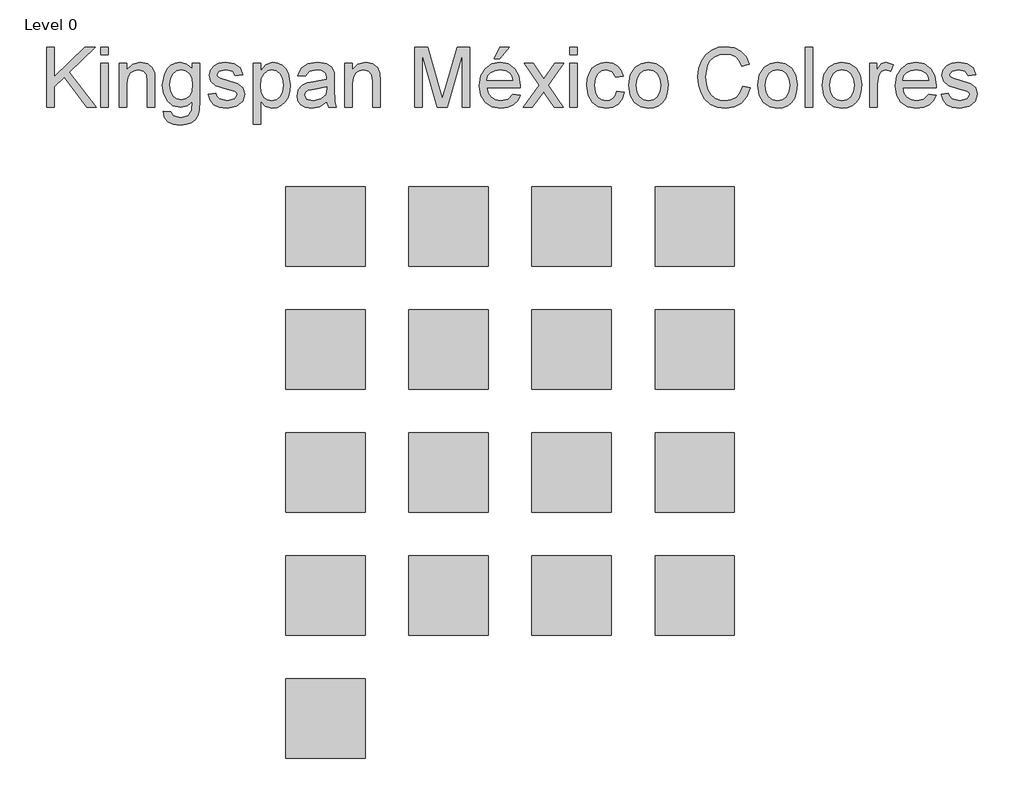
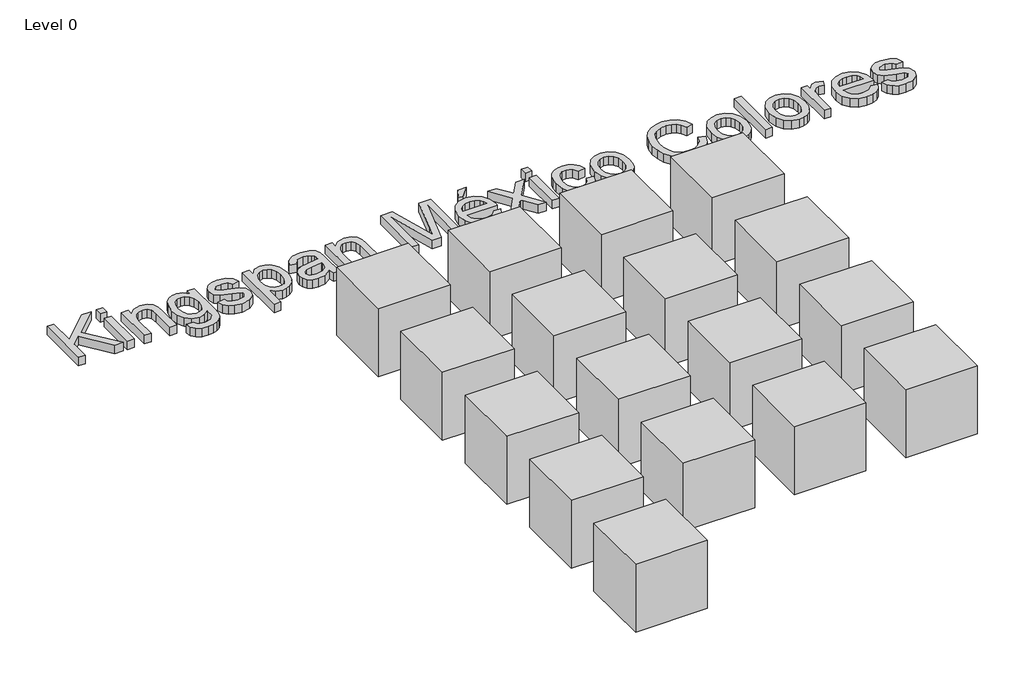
# One storey, incomplete: 18 proxies.
"""IFC4 building model written with IfcOpenShell, lengths in millimetres."""

import ifcopenshell
import ifcopenshell.guid

model = None  # the IFC model being written
_history = None  # IfcOwnerHistory: only IFC2X3 demands one
_inside = {}  # id of a spatial element -> (the spatial element, [elements in it])
_under = {}  # id of a project, library or spatial element -> (it, [spatial elements below it])
_declared = {}  # id of a project -> (the project, [libraries it declares])
_typed = {}  # id of a type object -> (the type object, [elements of that type])
_made_of = {}  # id of a material, layer set ... -> (it, [elements and type objects made of it])


def new_model(schema):
    """Start an empty IFC model of exactly this schema.

    Asked for "IFC4X3", IfcOpenShell would pick the latest addendum, in which some entities
    have other attributes; the version numbers below select the first issue.
    IFC2X3 requires an IfcOwnerHistory on every rooted entity: one is made here for all.
    """
    global model, _history
    if schema == "IFC4X3":
        model = ifcopenshell.file(schema_version=(4, 3, 0, 0))
    else:
        model = ifcopenshell.file(schema=schema)
    _inside.clear()
    _under.clear()
    _declared.clear()
    _typed.clear()
    _made_of.clear()
    _history = None
    if model.schema == "IFC2X3":
        org = make("IfcOrganization", Name="unknown")
        user = make(
            "IfcPersonAndOrganization",
            ThePerson=make("IfcPerson", FamilyName="unknown"),
            TheOrganization=org,
        )
        app = make(
            "IfcApplication",
            ApplicationDeveloper=org,
            Version="unknown",
            ApplicationFullName="unknown",
            ApplicationIdentifier="unknown",
        )
        _history = make(
            "IfcOwnerHistory",
            OwningUser=user,
            OwningApplication=app,
            ChangeAction="ADDED",
            CreationDate=0,
        )
    return model


def make(cls, **values):
    """One entity of the class cls with the attributes given. An attribute that is None is left unset."""
    return model.create_entity(
        cls, **{name: value for name, value in values.items() if value is not None}
    )


def rooted(cls, **values):
    """An entity with a GlobalId (a new one), such as an element, a storey or a relation."""
    return make(cls, GlobalId=ifcopenshell.guid.new(), OwnerHistory=_history, **values)


def si_unit(unit_type, name, prefix=None):
    """IfcSIUnit, for example si_unit("LENGTHUNIT", "METRE", prefix="MILLI")."""
    return make("IfcSIUnit", UnitType=unit_type, Prefix=prefix, Name=name)


def assignment(units):
    """IfcUnitAssignment: the units of a project."""
    return None if units is None else make("IfcUnitAssignment", Units=units)


def point(xyz):
    """IfcCartesianPoint."""
    return None if xyz is None else make("IfcCartesianPoint", Coordinates=xyz)


def direction(xyz):
    """IfcDirection."""
    return None if xyz is None else make("IfcDirection", DirectionRatios=xyz)


def frame(location, z_axis=None, x_axis=None):
    """IfcAxis2Placement3D, a coordinate frame: its origin and axes. An axis left out is left unset."""
    return make(
        "IfcAxis2Placement3D",
        Location=point(location),
        Axis=direction(z_axis),
        RefDirection=direction(x_axis),
    )


def origin():
    """The frame at (0, 0, 0) with its axes left unset."""
    return frame((0.0, 0.0, 0.0))


def origin_with_axes():
    """The frame at (0, 0, 0) with the z axis (0, 0, 1) and the x axis (1, 0, 0) written out."""
    return frame((0.0, 0.0, 0.0), z_axis=(0.0, 0.0, 1.0), x_axis=(1.0, 0.0, 0.0))


def place(relative_to, where):
    """IfcLocalPlacement: puts the frame where relative to a parent placement (None: the world)."""
    return make(
        "IfcLocalPlacement", PlacementRelTo=relative_to, RelativePlacement=where
    )


def context(
    kind, dimensions, precision=None, world=None, true_north=None, identifier=None
):
    """IfcGeometricRepresentationContext, for example the 3D "Model" context."""
    return make(
        "IfcGeometricRepresentationContext",
        ContextIdentifier=identifier,
        ContextType=kind,
        CoordinateSpaceDimension=dimensions,
        Precision=precision,
        WorldCoordinateSystem=world,
        TrueNorth=true_north,
    )


def project(units=None, contexts=None):
    """IfcProject with its units and contexts."""
    return rooted(
        "IfcProject",
        Name="project",
        RepresentationContexts=contexts,
        UnitsInContext=assignment(units),
    )


def spatial(cls, under=None, at=None, **own):
    """A site, building, storey or space (cls), placed at a placement, below another one or the project."""
    s = rooted(cls, ObjectPlacement=at, **own)
    if under is not None:
        _under.setdefault(under.id(), (under, []))[1].append(s)
    return s


def polyline(points):
    """IfcPolyline through the points."""
    return make("IfcPolyline", Points=[point(p) for p in points])


def outline(outer, holes=None, kind="AREA"):
    """IfcArbitraryClosedProfileDef: a profile drawn as a closed curve; with holes, ...WithVoids."""
    if holes is None:
        return make("IfcArbitraryClosedProfileDef", ProfileType=kind, OuterCurve=outer)
    return make(
        "IfcArbitraryProfileDefWithVoids",
        ProfileType=kind,
        OuterCurve=outer,
        InnerCurves=holes,
    )


def extrude(swept, where, along, depth):
    """IfcExtrudedAreaSolid: the profile swept, set in the frame where, extruded along a direction by depth."""
    return make(
        "IfcExtrudedAreaSolid",
        SweptArea=swept,
        Position=where,
        ExtrudedDirection=direction(along),
        Depth=depth,
    )


def shape(context_of_items, identifier, shape_type, items):
    """IfcShapeRepresentation: the items that make up one representation, for example the "Body"."""
    return make(
        "IfcShapeRepresentation",
        ContextOfItems=context_of_items,
        RepresentationIdentifier=identifier,
        RepresentationType=shape_type,
        Items=items,
    )


def source(mapping_origin, context_of_items, identifier, shape_type, items):
    """IfcRepresentationMap: a shape defined once, which mapped items show again and again."""
    return make(
        "IfcRepresentationMap",
        MappingOrigin=mapping_origin,
        MappedRepresentation=shape(context_of_items, identifier, shape_type, items),
    )


def transform(
    local_origin,
    x_axis=None,
    y_axis=None,
    z_axis=None,
    scale=None,
    scale2=None,
    scale3=None,
    uniform=True,
):
    """IfcCartesianTransformationOperator3D, or its non-uniform kind. x_axis, y_axis, z_axis: its Axis1, 2, 3."""
    if uniform:
        return make(
            "IfcCartesianTransformationOperator3D",
            Axis1=direction(x_axis),
            Axis2=direction(y_axis),
            LocalOrigin=point(local_origin),
            Scale=scale,
            Axis3=direction(z_axis),
        )
    return make(
        "IfcCartesianTransformationOperator3DnonUniform",
        Axis1=direction(x_axis),
        Axis2=direction(y_axis),
        LocalOrigin=point(local_origin),
        Scale=scale,
        Axis3=direction(z_axis),
        Scale2=scale2,
        Scale3=scale3,
    )


def mapped(mapping_source, mapping_target):
    """IfcMappedItem: shows the shape of a source again, moved by a transform."""
    return make(
        "IfcMappedItem", MappingSource=mapping_source, MappingTarget=mapping_target
    )


def made_of(thing, what):
    """Note that an element or type object is made of a material, layer set ...; save() writes the relation."""
    if what is not None:
        _made_of.setdefault(what.id(), (what, []))[1].append(thing)
    return thing


def element(
    cls,
    number,
    at=None,
    inside=None,
    cuts=None,
    type_object=None,
    material=None,
    context=None,
    identifier="Body",
    shape_type=None,
    held_by="IfcProductDefinitionShape",
    body=None,
    shapes=None,
    **own,
):
    """One element of the class cls, such as IfcWall. Its Tag is "e" and its number.

    at: its placement. inside: the storey or other place that contains it. cuts: it is an
    opening in that element (IfcRelVoidsElement). A single representation is given by context,
    identifier, shape_type and body (its items); several are given by shapes. held_by: the class
    of the entity that holds the representations. save() writes the other relations.
    """
    e = rooted(cls, Tag="e%d" % number, ObjectPlacement=at, **own)
    if body is not None:
        shapes = [shape(context, identifier, shape_type, body)]
    if shapes is not None:
        e.Representation = make(held_by, Representations=shapes)
    if inside is not None:
        _inside.setdefault(inside.id(), (inside, []))[1].append(e)
    if cuts is not None:
        rooted(
            "IfcRelVoidsElement", RelatingBuildingElement=cuts, RelatedOpeningElement=e
        )
    if type_object is not None:
        _typed.setdefault(type_object.id(), (type_object, []))[1].append(e)
    return made_of(e, material)


def aggregate(whole, parts):
    """IfcRelAggregates: a whole, such as a stair, and the parts it consists of."""
    return rooted("IfcRelAggregates", RelatingObject=whole, RelatedObjects=parts)


def save(model, path):
    """Write the relations noted so far, then the file.

    IfcRelAggregates (storeys below a building ...), IfcRelContainedInSpatialStructure (elements
    in a storey), IfcRelDefinesByType, IfcRelAssociatesMaterial and IfcRelDeclares: one each for
    every whole, place, type object, material and project.
    """
    for whole, parts in _under.values():
        aggregate(whole, parts)
    for where, things in _inside.values():
        rooted(
            "IfcRelContainedInSpatialStructure",
            RelatedElements=things,
            RelatingStructure=where,
        )
    for kind, things in _typed.values():
        rooted("IfcRelDefinesByType", RelatedObjects=things, RelatingType=kind)
    for what, things in _made_of.values():
        rooted("IfcRelAssociatesMaterial", RelatedObjects=things, RelatingMaterial=what)
    for by, libraries in _declared.values():
        rooted("IfcRelDeclares", RelatingContext=by, RelatedDefinitions=libraries)
    model.write(path)


def generic_models_b1469a46(model_context):
    return source(origin(), model_context, "Body", "SweptSolid", [
        extrude(outline(polyline([(-1167.8046055, 2278.480545), (-1167.8046055, 2429.1650102), (-1148.9690473, 2429.1650102), (-1148.9690473, 2355.4046702), (-1071.7138283, 2429.1650102), (-1045.3734775, 2429.1650102), (-1110.2310732, 2367.2136822), (-1043.0190327, 2278.480545), (-1066.0484456, 2278.480545), (-1123.5851897, 2354.4849652), (-1148.9690473, 2330.2783299), (-1148.9690473, 2278.480545), (-1167.8046055, 2278.480545)])), origin_with_axes(), (0.0, 0.0, 1.0), 25.0),
        extrude(outline(polyline([(-1031.2468089, 2410.3294521), (-1031.2468089, 2429.1650102), (-1012.4112507, 2429.1650102), (-1012.4112507, 2410.3294521), (-1031.2468089, 2410.3294521)])), origin_with_axes(), (0.0, 0.0, 1.0), 25.0),
        extrude(outline(polyline([(-1031.2468089, 2278.480545), (-1031.2468089, 2389.1394492), (-1012.4112507, 2389.1394492), (-1012.4112507, 2278.480545), (-1031.2468089, 2278.480545)])), origin_with_axes(), (0.0, 0.0, 1.0), 25.0),
        extrude(outline(polyline([(-984.1579135, 2278.480545), (-984.1579135, 2389.1394492), (-965.3223553, 2389.1394492), (-965.3223553, 2373.6884054), (-950.9197752, 2387.0425218), (-931.2564826, 2391.4938939), (-913.4693881, 2387.9070445), (-901.3292823, 2378.4892654), (-895.6822937, 2364.6385083), (-894.6890123, 2346.4283495), (-894.6890123, 2278.480545), (-913.5245704, 2278.480545), (-913.5245704, 2343.8899637), (-915.6950742, 2360.5550181), (-923.3654138, 2369.3657919), (-936.2964659, 2372.6583358), (-947.3283273, 2370.8097287), (-956.7323108, 2365.2639077), (-963.1748442, 2354.5493446), (-965.3223553, 2337.1945114), (-965.3223553, 2278.480545), (-984.1579135, 2278.480545)])), origin_with_axes(), (0.0, 0.0, 1.0), 25.0),
        extrude(outline(polyline([(-873.4990093, 2269.0627659), (-854.6634512, 2266.7083212), (-848.5566101, 2256.7755073), (-830.2728749, 2252.5816525), (-810.9958584, 2257.3273303), (-801.7988085, 2270.6446585), (-800.5112215, 2292.6072136), (-813.7733674, 2282.0122122), (-829.9417811, 2278.480545), (-849.3613519, 2282.5916263), (-863.842107, 2294.9248702), (-872.8506173, 2313.0062703), (-875.8534541, 2334.3618201), (-870.4639829, 2363.5532564), (-863.8696981, 2375.4036552), (-854.8657863, 2384.2098304), (-843.7603486, 2389.672878), (-830.8614861, 2391.4938939), (-814.058476, 2387.3736156), (-800.5112215, 2375.0127805), (-800.5112215, 2389.1394492), (-781.6756634, 2389.1394492), (-781.6756634, 2293.600495), (-782.9632503, 2271.5413709), (-786.8260113, 2257.0146306), (-793.4800769, 2247.3807208), (-803.1415778, 2240.0000883), (-815.5989818, 2235.3095929), (-830.6407569, 2233.7460944), (-848.1657355, 2235.9487878), (-861.9659088, 2242.5568682), (-870.8180693, 2253.5887295), (-873.4990093, 2269.0627659)]), holes=[polyline([(-857.017896, 2335.6494071), (-855.0083406, 2318.3727489), (-848.9796744, 2306.4947589), (-839.9159817, 2299.6107671), (-828.8013469, 2297.3161032), (-817.7694856, 2299.5969715), (-808.6598077, 2306.4395766), (-802.5483681, 2318.1658152), (-800.5112215, 2335.0975841), (-802.6081489, 2351.4269461), (-808.898931, 2363.1853744), (-818.1419661, 2370.2900954), (-829.0956525, 2372.6583358), (-839.8516024, 2370.3268836), (-848.8693098, 2363.3325272), (-854.9807494, 2351.7488429), (-857.017896, 2335.6494071)])]), origin_with_axes(), (0.0, 0.0, 1.0), 25.0),
        extrude(outline(polyline([(-760.4856604, 2311.4427718), (-741.6501023, 2313.7972165), (-738.6794552, 2305.7406008), (-732.931299, 2299.8177007), (-712.9553067, 2294.9616584), (-693.7518665, 2299.4130305), (-687.4978726, 2309.8608792), (-689.0705681, 2314.6617392), (-693.7886547, 2318.3221651), (-713.1760358, 2323.6932422), (-741.5397377, 2332.9086862), (-753.9189668, 2343.6692345), (-758.1312157, 2358.8627609), (-754.7467013, 2372.8974591), (-745.5128632, 2383.6212192), (-733.5383043, 2389.1946315), (-717.3331024, 2391.4938939), (-694.4140541, 2387.7966799), (-679.8459271, 2377.7902896), (-673.371204, 2360.8861119), (-692.2067621, 2358.5316672), (-699.2884905, 2368.9243335), (-715.8615744, 2372.6583358), (-733.8877922, 2369.0898804), (-739.2956575, 2360.7757473), (-737.0515773, 2355.2943056), (-730.0250312, 2351.1372391), (-713.8014352, 2347.1273253), (-686.1551033, 2338.2613692), (-673.3160217, 2328.2181908), (-668.6623144, 2311.847442), (-674.1253621, 2293.8212242), (-689.8891056, 2280.7430193), (-713.212824, 2276.1261002), (-732.2047321, 2278.3517863), (-746.0646862, 2285.0288445), (-755.3169184, 2296.0836985), (-760.4856604, 2311.4427718)])), origin_with_axes(), (0.0, 0.0, 1.0), 25.0),
        extrude(outline(polyline([(-647.4723115, 2236.1005392), (-647.4723115, 2389.1394492), (-628.6367534, 2389.1394492), (-628.6367534, 2370.671773), (-615.6137307, 2386.2883637), (-598.0289714, 2391.4938939), (-585.2910573, 2389.672878), (-574.1534299, 2384.2098304), (-565.0851387, 2375.4358448), (-558.5552333, 2363.6820151), (-553.2945207, 2334.6561257), (-554.7798443, 2318.5474928), (-559.235815, 2304.1403142), (-566.5198785, 2292.1657552), (-576.4894805, 2283.3549814), (-588.100756, 2277.9333205), (-600.3098397, 2276.1261002), (-616.6989826, 2280.9637485), (-628.6367534, 2293.1958248), (-628.6367534, 2236.1005392), (-647.4723115, 2236.1005392)]), holes=[polyline([(-628.6367534, 2332.9270803), (-626.5996068, 2316.0412967), (-620.4881672, 2304.2322847), (-611.4704598, 2297.279315), (-600.7145099, 2294.9616584), (-589.7838161, 2297.3620884), (-580.5361825, 2304.5633785), (-574.2316048, 2316.8046519), (-572.1300789, 2334.3250319), (-574.181021, 2351.118845), (-580.3338474, 2363.0934039), (-589.3377592, 2370.2671028), (-599.9419577, 2372.6583358), (-610.587543, 2370.1153515), (-619.9363442, 2362.4863986), (-626.4616511, 2350.0106004), (-628.6367534, 2332.9270803)])]), origin_with_axes(), (0.0, 0.0, 1.0), 25.0),
        extrude(outline(polyline([(-461.4711747, 2292.6072136), (-479.7365158, 2279.8417084), (-499.9148432, 2276.1261002), (-515.6555941, 2278.3609834), (-527.2668696, 2285.0656327), (-534.4267729, 2295.2467669), (-536.8134074, 2307.9111046), (-533.2081638, 2322.8103254), (-523.7352024, 2333.6260561), (-510.5466329, 2339.8064736), (-494.2494605, 2342.639165), (-461.5815393, 2349.1138881), (-461.4711747, 2353.3077428), (-462.7679588, 2361.7138464), (-466.6583109, 2367.2136822), (-475.3587201, 2371.2971724), (-487.4804318, 2372.6583358), (-506.5367192, 2369.0346981), (-515.6234044, 2356.1772224), (-534.4589626, 2358.5316672), (-526.3103764, 2376.9257669), (-509.9028394, 2387.7047094), (-485.0524106, 2391.4938939), (-462.2253328, 2388.1461678), (-449.3310689, 2379.7400642), (-443.5553216, 2366.9561648), (-442.6356166, 2350.4750515), (-442.6356166, 2327.0409684), (-441.6791234, 2294.3178649), (-437.9267271, 2278.480545), (-456.7622852, 2278.480545), (-461.4711747, 2292.6072136)]), holes=[polyline([(-461.4711747, 2330.2783299), (-491.8582276, 2324.5025826), (-508.0634294, 2321.449162), (-515.4026752, 2316.4827551), (-517.9778492, 2309.2354798), (-512.3676488, 2299.0451485), (-495.9049295, 2294.9616584), (-476.8486421, 2299.4682128), (-464.5613835, 2310.375914), (-461.5815393, 2324.944041), (-461.4711747, 2330.2783299)])]), origin_with_axes(), (0.0, 0.0, 1.0), 25.0),
        extrude(outline(polyline([(-416.7367241, 2278.480545), (-416.7367241, 2389.1394492), (-397.901166, 2389.1394492), (-397.901166, 2373.6884054), (-383.4985859, 2387.0425218), (-363.8352932, 2391.4938939), (-346.0481988, 2387.9070445), (-333.9080929, 2378.4892654), (-328.2611043, 2364.6385083), (-327.2678229, 2346.4283495), (-327.2678229, 2278.480545), (-346.1033811, 2278.480545), (-346.1033811, 2343.8899637), (-348.2738848, 2360.5550181), (-355.9442244, 2369.3657919), (-368.8752766, 2372.6583358), (-379.9071379, 2370.8097287), (-389.3111214, 2365.2639077), (-395.7536548, 2354.5493446), (-397.901166, 2337.1945114), (-397.901166, 2278.480545), (-416.7367241, 2278.480545)])), origin_with_axes(), (0.0, 0.0, 1.0), 25.0),
        extrude(outline(polyline([(-240.1533665, 2278.480545), (-240.1533665, 2429.1650102), (-207.7429627, 2429.1650102), (-176.9144515, 2322.9574782), (-170.6972458, 2300.7741939), (-163.9650053, 2324.7968882), (-133.6515288, 2429.1650102), (-101.2411251, 2429.1650102), (-101.2411251, 2278.480545), (-120.0766832, 2278.480545), (-120.0766832, 2410.3294521), (-157.9317405, 2278.480545), (-183.462751, 2278.480545), (-221.3178083, 2410.3294521), (-221.3178083, 2278.480545), (-240.1533665, 2278.480545)])), origin_with_axes(), (0.0, 0.0, 1.0), 25.0),
        extrude(outline(polyline([(6.8426051, 2311.4427718), (25.3102813, 2309.088327), (18.6562157, 2295.1731905), (8.0382216, 2284.7713271), (-6.3045777, 2278.287407), (-24.1330589, 2276.1261002), (-46.2335697, 2279.855504), (-63.238915, 2291.0437151), (-74.0822368, 2308.9641668), (-77.6966774, 2332.8902921), (-74.0454486, 2357.6211592), (-63.0917622, 2376.1164265), (-46.3163432, 2387.6495271), (-25.1999167, 2391.4938939), (-4.7410792, 2387.6587241), (11.6066769, 2376.1532147), (22.3258386, 2357.6947356), (25.8988925, 2333.0006567), (25.7885279, 2327.9238852), (-58.8611192, 2327.9238852), (-55.600765, 2313.8248077), (-48.0269945, 2303.4597325), (-37.0963007, 2297.0861769), (-23.7651769, 2294.9616584), (-5.2975007, 2298.8979957), (6.8426051, 2311.4427718)]), holes=[polyline([(-58.8611192, 2346.7594433), (7.0633343, 2346.7594433), (4.5157515, 2356.7106513), (-0.4782466, 2363.8291679), (-11.4595241, 2370.4510438), (-25.2734931, 2372.6583358), (-37.9700204, 2370.8971007), (-48.4684529, 2365.6133956), (-55.7663119, 2357.3774374), (-58.8611192, 2346.7594433)])]), origin_with_axes(), (0.0, 0.0, 1.0), 25.0),
        extrude(outline(polyline([(-40.0255611, 2400.911673), (-25.8988925, 2429.1650102), (-2.3544448, 2429.1650102), (-25.8988925, 2400.911673), (-40.0255611, 2400.911673)])), origin_with_axes(), (0.0, 0.0, 1.0), 25.0),
        extrude(outline(polyline([(32.9622268, 2278.480545), (73.208517, 2334.1043027), (35.3166715, 2389.1394492), (57.9782024, 2389.1394492), (76.2619376, 2362.6519455), (84.7967999, 2350.1439577), (92.191228, 2360.3710771), (113.0133489, 2389.1394492), (135.6748798, 2389.1394492), (95.8700479, 2334.1043027), (134.2033518, 2278.480545), (111.5418209, 2278.480545), (88.4756198, 2311.9210184), (84.2449769, 2318.0278595), (55.6237577, 2278.480545), (32.9622268, 2278.480545)])), origin_with_axes(), (0.0, 0.0, 1.0), 25.0),
        extrude(outline(polyline([(150.6844652, 2410.3294521), (150.6844652, 2429.1650102), (169.5200234, 2429.1650102), (169.5200234, 2410.3294521), (150.6844652, 2410.3294521)])), origin_with_axes(), (0.0, 0.0, 1.0), 25.0),
        extrude(outline(polyline([(150.6844652, 2278.480545), (150.6844652, 2389.1394492), (169.5200234, 2389.1394492), (169.5200234, 2278.480545), (150.6844652, 2278.480545)])), origin_with_axes(), (0.0, 0.0, 1.0), 25.0),
        extrude(outline(polyline([(268.4067037, 2318.5061061), (287.2422618, 2316.1516613), (281.9907464, 2299.399235), (272.1223118, 2286.7394958), (258.5658603, 2278.7794491), (242.2502938, 2276.1261002), (222.2145207, 2279.8279128), (206.5473462, 2290.9333505), (196.4351898, 2308.9549698), (193.0644711, 2333.4053269), (194.5038094, 2350.1669503), (198.8218243, 2364.6936906), (206.0874937, 2376.4245277), (216.3697955, 2384.7984416), (228.6708497, 2389.8200308), (241.9927764, 2391.4938939), (257.9082712, 2389.1946315), (270.6323898, 2382.296844), (279.7604618, 2371.1684137), (284.8878171, 2356.1772224), (266.0522589, 2353.8227776), (257.3150615, 2367.9310521), (242.1399292, 2372.6583358), (229.9676337, 2370.3314821), (220.3061328, 2363.3509213), (214.0015551, 2351.3395741), (211.9000292, 2333.9203617), (213.9555699, 2316.2666244), (220.1221918, 2304.2138906), (229.6089488, 2297.2747164), (241.6248944, 2294.9616584), (251.3783658, 2296.4055952), (259.3752007, 2300.7374057), (265.1923347, 2308.0674545), (268.4067037, 2318.5061061)])), origin_with_axes(), (0.0, 0.0, 1.0), 25.0),
        extrude(outline(polyline([(299.0144857, 2333.8099971), (303.0887788, 2360.4906388), (315.3116581, 2379.2434235), (330.413214, 2388.4312763), (348.494614, 2391.4938939), (368.2820668, 2387.7644902), (384.0871971, 2376.576279), (394.4476738, 2358.8121772), (397.901166, 2335.3551015), (396.3744557, 2316.3264053), (391.7943249, 2301.8410517), (384.2941307, 2290.9931314), (374.0072304, 2282.8767348), (361.7889496, 2277.8137589), (348.494614, 2276.1261002), (328.4680379, 2279.8417084), (312.6813018, 2290.9885328), (302.4311897, 2309.1251152), (299.0144857, 2333.8099971)]), holes=[polyline([(317.8500438, 2333.8467853), (320.0297447, 2316.8000533), (326.5688471, 2304.655349), (336.4096905, 2297.385081), (348.494614, 2294.9616584), (360.5243553, 2297.3988766), (370.3468045, 2304.7105313), (376.885907, 2317.016184), (379.0656078, 2334.4353965), (376.8721114, 2350.9854877), (370.2916222, 2362.9646452), (360.4553774, 2370.2349131), (348.494614, 2372.6583358), (336.4096905, 2370.2441102), (326.5688471, 2363.0014334), (320.0297447, 2350.8843202), (317.8500438, 2333.8467853)])]), origin_with_axes(), (0.0, 0.0, 1.0), 25.0),
        extrude(outline(polyline([(586.2567475, 2332.0441635), (605.0923057, 2327.1881212), (596.4010935, 2305.2393616), (582.7618686, 2289.2043052), (564.8460154, 2279.3956515), (543.3249187, 2276.1261002), (521.4773267, 2278.6001067), (504.1270921, 2286.0221259), (490.828158, 2298.1346406), (481.1344674, 2314.6801333), (475.2161658, 2334.1318938), (473.2433986, 2354.9632118), (475.4736832, 2376.934964), (482.164537, 2395.9084779), (492.9664721, 2411.2813467), (507.5300005, 2422.4511638), (524.8020602, 2429.2523822), (543.7295889, 2431.519455), (564.3815644, 2428.5855961), (581.4558875, 2419.7840194), (594.4191293, 2405.6573507), (602.7378609, 2386.7482162), (583.9023027, 2382.2600558), (577.3723973, 2395.9958498), (568.4512589, 2405.4182274), (557.028523, 2410.8674795), (542.9938249, 2412.6838968), (526.8162141, 2410.6697429), (513.5264771, 2404.6272811), (503.4419119, 2395.191108), (496.8798168, 2382.9958198), (492.0789567, 2355.0), (493.499901, 2337.5991816), (497.7627336, 2322.552808), (505.028403, 2310.4356948), (515.4578575, 2301.8226576), (527.9612469, 2296.6769082), (541.4487205, 2294.9616584), (557.1710773, 2297.2977091), (570.2722748, 2304.3058611), (580.163702, 2315.912538), (586.2567475, 2332.0441635)])), origin_with_axes(), (0.0, 0.0, 1.0), 25.0),
        extrude(outline(polyline([(623.9278638, 2333.8099971), (628.0021569, 2360.4906388), (640.2250362, 2379.2434235), (655.3265921, 2388.4312763), (673.4079922, 2391.4938939), (693.195445, 2387.7644902), (709.0005752, 2376.576279), (719.3610519, 2358.8121772), (722.8145441, 2335.3551015), (721.2878338, 2316.3264053), (716.707703, 2301.8410517), (709.2075088, 2290.9931314), (698.9206085, 2282.8767348), (686.7023278, 2277.8137589), (673.4079922, 2276.1261002), (653.3814161, 2279.8417084), (637.5946799, 2290.9885328), (627.3445679, 2309.1251152), (623.9278638, 2333.8099971)]), holes=[polyline([(642.763422, 2333.8467853), (644.9431228, 2316.8000533), (651.4822253, 2304.655349), (661.3230686, 2297.385081), (673.4079922, 2294.9616584), (685.4377334, 2297.3988766), (695.2601827, 2304.7105313), (701.7992851, 2317.016184), (703.978986, 2334.4353965), (701.7854896, 2350.9854877), (695.2050004, 2362.9646452), (685.3687555, 2370.2349131), (673.4079922, 2372.6583358), (661.3230686, 2370.2441102), (651.4822253, 2363.0014334), (644.9431228, 2350.8843202), (642.763422, 2333.8467853)])]), origin_with_axes(), (0.0, 0.0, 1.0), 25.0),
        extrude(outline(polyline([(744.004547, 2278.480545), (744.004547, 2429.1650102), (762.8401052, 2429.1650102), (762.8401052, 2278.480545), (744.004547, 2278.480545)])), origin_with_axes(), (0.0, 0.0, 1.0), 25.0),
        extrude(outline(polyline([(786.3845529, 2333.8099971), (790.458846, 2360.4906388), (802.6817253, 2379.2434235), (817.7832812, 2388.4312763), (835.8646812, 2391.4938939), (855.6521341, 2387.7644902), (871.4572643, 2376.576279), (881.817741, 2358.8121772), (885.2712332, 2335.3551015), (883.7445229, 2316.3264053), (879.1643921, 2301.8410517), (871.6641979, 2290.9931314), (861.3772976, 2282.8767348), (849.1590168, 2277.8137589), (835.8646812, 2276.1261002), (815.8381051, 2279.8417084), (800.051369, 2290.9885328), (789.8012569, 2309.1251152), (786.3845529, 2333.8099971)]), holes=[polyline([(805.220111, 2333.8467853), (807.3998119, 2316.8000533), (813.9389143, 2304.655349), (823.7797577, 2297.385081), (835.8646812, 2294.9616584), (847.8944225, 2297.3988766), (857.7168718, 2304.7105313), (864.2559742, 2317.016184), (866.435675, 2334.4353965), (864.2421786, 2350.9854877), (857.6616895, 2362.9646452), (847.8254446, 2370.2349131), (835.8646812, 2372.6583358), (823.7797577, 2370.2441102), (813.9389143, 2363.0014334), (807.3998119, 2350.8843202), (805.220111, 2333.8467853)])]), origin_with_axes(), (0.0, 0.0, 1.0), 25.0),
        extrude(outline(polyline([(906.4612361, 2278.480545), (906.4612361, 2389.1394492), (922.9423495, 2389.1394492), (922.9423495, 2372.7687004), (934.6409969, 2387.8518622), (946.4132208, 2391.4938939), (965.3223553, 2385.6813584), (959.0315732, 2368.7955748), (945.7878214, 2372.6583358), (935.1376376, 2368.9427276), (928.3502148, 2358.6420318), (925.2967943, 2336.6426884), (925.2967943, 2278.480545), (906.4612361, 2278.480545)])), origin_with_axes(), (0.0, 0.0, 1.0), 25.0),
        extrude(outline(polyline([(1054.5705274, 2311.4427718), (1073.0382035, 2309.088327), (1066.3841379, 2295.1731905), (1055.7661439, 2284.7713271), (1041.4233446, 2278.287407), (1023.5948634, 2276.1261002), (1001.4943525, 2279.855504), (984.4890073, 2291.0437151), (973.6456855, 2308.9641668), (970.0312449, 2332.8902921), (973.6824737, 2357.6211592), (984.6361601, 2376.1164265), (1001.4115791, 2387.6495271), (1022.5280056, 2391.4938939), (1042.9868431, 2387.6587241), (1059.3345992, 2376.1532147), (1070.0537608, 2357.6947356), (1073.6268147, 2333.0006567), (1073.5164501, 2327.9238852), (988.866803, 2327.9238852), (992.1271572, 2313.8248077), (999.7009278, 2303.4597325), (1010.6316216, 2297.0861769), (1023.9627454, 2294.9616584), (1042.4304215, 2298.8979957), (1054.5705274, 2311.4427718)]), holes=[polyline([(988.866803, 2346.7594433), (1054.7912566, 2346.7594433), (1052.2436738, 2356.7106513), (1047.2496757, 2363.8291679), (1036.2683981, 2370.4510438), (1022.4544292, 2372.6583358), (1009.7579018, 2370.8971007), (999.2594694, 2365.6133956), (991.9616103, 2357.3774374), (988.866803, 2346.7594433)])]), origin_with_axes(), (0.0, 0.0, 1.0), 25.0),
        extrude(outline(polyline([(1085.3990386, 2311.4427718), (1104.2345967, 2313.7972165), (1107.2052438, 2305.7406008), (1112.9534, 2299.8177007), (1132.9293923, 2294.9616584), (1152.1328325, 2299.4130305), (1158.3868264, 2309.8608792), (1156.8141309, 2314.6617392), (1152.0960443, 2318.3221651), (1132.7086631, 2323.6932422), (1104.3449613, 2332.9086862), (1091.9657322, 2343.6692345), (1087.7534833, 2358.8627609), (1091.1379977, 2372.8974591), (1100.3718358, 2383.6212192), (1112.3463947, 2389.1946315), (1128.5515966, 2391.4938939), (1151.4706449, 2387.7966799), (1166.0387719, 2377.7902896), (1172.513495, 2360.8861119), (1153.6779369, 2358.5316672), (1146.5962085, 2368.9243335), (1130.0231246, 2372.6583358), (1111.9969068, 2369.0898804), (1106.5890415, 2360.7757473), (1108.8331217, 2355.2943056), (1115.8596678, 2351.1372391), (1132.0832638, 2347.1273253), (1159.7295957, 2338.2613692), (1172.5686773, 2328.2181908), (1177.2223846, 2311.847442), (1171.7593369, 2293.8212242), (1155.9955934, 2280.7430193), (1132.6718749, 2276.1261002), (1113.6799669, 2278.3517863), (1099.8200128, 2285.0288445), (1090.5677806, 2296.0836985), (1085.3990386, 2311.4427718)])), origin_with_axes(), (0.0, 0.0, 1.0), 25.0),
    ])


def ks_colour_sample_ks_colour_sample_0243efec(model_context):
    return source(origin(), model_context, "Body", "SweptSolid", [
        extrude(outline(polyline([(100.0, 100.0), (100.0, -100.0), (-100.0, -100.0), (-100.0, 100.0), (100.0, 100.0)])), origin_with_axes(), (0.0, 0.0, 1.0), 200.0),
    ])


model = new_model("IFC4")

# Units and contexts
model_context = context("Model", 3, world=origin())
ifc_project = project(units=[si_unit("LENGTHUNIT", "METRE", prefix="MILLI")], contexts=[model_context])

# Site, building, storey
site = spatial("IfcSite", under=ifc_project)
building = spatial("IfcBuilding", under=site)
storey = spatial("IfcBuildingStorey", under=building, Name="Level 0", Elevation=0.0)

# Proxies
placement = place(None, origin())
generic_models_shape = generic_models_b1469a46(model_context)
element("IfcBuildingElementProxy", 1, Name="KIP-MX_ColourRange_Spanish : KIP-MX_ColourRange_English", ObjectType="KIP-MX_ColourRange_Spanish : KIP-MX_ColourRange_English", at=placement, inside=storey, context=model_context, shape_type="MappedRepresentation", body=[
    mapped(generic_models_shape, transform((1966.0629502, 11802.7493823, 0.0), x_axis=(1.0, 0.0, 0.0), y_axis=(0.0, 1.0, 0.0), z_axis=(0.0, 0.0, 1.0))),
])
ks_colour_sample_ks_colour_sample_shape = ks_colour_sample_ks_colour_sample_0243efec(model_context)
element("IfcBuildingElementProxy", 2, Name="KS_Colour Sample : KS_Colour Sample", ObjectType="KS_Colour Sample : KS_Colour Sample", at=placement, inside=storey, context=model_context, shape_type="MappedRepresentation", body=[
    mapped(ks_colour_sample_ks_colour_sample_shape, transform((1501.0629502, 13781.2299273, 0.0), x_axis=(1.0, 0.0, 0.0), y_axis=(0.0, 1.0, 0.0), z_axis=(0.0, 0.0, 1.0))),
])
element("IfcBuildingElementProxy", 3, Name="KS_Colour Sample : KS_Colour Sample", ObjectType="KS_Colour Sample : KS_Colour Sample", at=placement, inside=storey, context=model_context, shape_type="MappedRepresentation", body=[
    mapped(ks_colour_sample_ks_colour_sample_shape, transform((1811.0629502, 13781.2299273, 0.0), x_axis=(1.0, 0.0, 0.0), y_axis=(0.0, 1.0, 0.0), z_axis=(0.0, 0.0, 1.0))),
])
element("IfcBuildingElementProxy", 4, Name="KS_Colour Sample : KS_Colour Sample", ObjectType="KS_Colour Sample : KS_Colour Sample", at=placement, inside=storey, context=model_context, shape_type="MappedRepresentation", body=[
    mapped(ks_colour_sample_ks_colour_sample_shape, transform((2121.0629502, 13781.2299273, 0.0), x_axis=(1.0, 0.0, 0.0), y_axis=(0.0, 1.0, 0.0), z_axis=(0.0, 0.0, 1.0))),
])
element("IfcBuildingElementProxy", 5, Name="KS_Colour Sample : KS_Colour Sample", ObjectType="KS_Colour Sample : KS_Colour Sample", at=placement, inside=storey, context=model_context, shape_type="MappedRepresentation", body=[
    mapped(ks_colour_sample_ks_colour_sample_shape, transform((2431.0629502, 13781.2299273, 0.0), x_axis=(1.0, 0.0, 0.0), y_axis=(0.0, 1.0, 0.0), z_axis=(0.0, 0.0, 1.0))),
])
element("IfcBuildingElementProxy", 6, Name="KS_Colour Sample : KS_Colour Sample", ObjectType="KS_Colour Sample : KS_Colour Sample", at=placement, inside=storey, context=model_context, shape_type="MappedRepresentation", body=[
    mapped(ks_colour_sample_ks_colour_sample_shape, transform((1501.0629502, 13471.2299273, 0.0), x_axis=(1.0, 0.0, 0.0), y_axis=(0.0, 1.0, 0.0), z_axis=(0.0, 0.0, 1.0))),
])
element("IfcBuildingElementProxy", 7, Name="KS_Colour Sample : KS_Colour Sample", ObjectType="KS_Colour Sample : KS_Colour Sample", at=placement, inside=storey, context=model_context, shape_type="MappedRepresentation", body=[
    mapped(ks_colour_sample_ks_colour_sample_shape, transform((1811.0629502, 13471.2299273, 0.0), x_axis=(1.0, 0.0, 0.0), y_axis=(0.0, 1.0, 0.0), z_axis=(0.0, 0.0, 1.0))),
])
element("IfcBuildingElementProxy", 8, Name="KS_Colour Sample : KS_Colour Sample", ObjectType="KS_Colour Sample : KS_Colour Sample", at=placement, inside=storey, context=model_context, shape_type="MappedRepresentation", body=[
    mapped(ks_colour_sample_ks_colour_sample_shape, transform((2121.0629502, 13471.2299273, 0.0), x_axis=(1.0, 0.0, 0.0), y_axis=(0.0, 1.0, 0.0), z_axis=(0.0, 0.0, 1.0))),
])
element("IfcBuildingElementProxy", 9, Name="KS_Colour Sample : KS_Colour Sample", ObjectType="KS_Colour Sample : KS_Colour Sample", at=placement, inside=storey, context=model_context, shape_type="MappedRepresentation", body=[
    mapped(ks_colour_sample_ks_colour_sample_shape, transform((2431.0629502, 13471.2299273, 0.0), x_axis=(1.0, 0.0, 0.0), y_axis=(0.0, 1.0, 0.0), z_axis=(0.0, 0.0, 1.0))),
])
element("IfcBuildingElementProxy", 10, Name="KS_Colour Sample : KS_Colour Sample", ObjectType="KS_Colour Sample : KS_Colour Sample", at=placement, inside=storey, context=model_context, shape_type="MappedRepresentation", body=[
    mapped(ks_colour_sample_ks_colour_sample_shape, transform((1501.0629502, 13161.2299273, 0.0), x_axis=(1.0, 0.0, 0.0), y_axis=(0.0, 1.0, 0.0), z_axis=(0.0, 0.0, 1.0))),
])
element("IfcBuildingElementProxy", 11, Name="KS_Colour Sample : KS_Colour Sample", ObjectType="KS_Colour Sample : KS_Colour Sample", at=placement, inside=storey, context=model_context, shape_type="MappedRepresentation", body=[
    mapped(ks_colour_sample_ks_colour_sample_shape, transform((1811.0629502, 13161.2299273, 0.0), x_axis=(1.0, 0.0, 0.0), y_axis=(0.0, 1.0, 0.0), z_axis=(0.0, 0.0, 1.0))),
])
element("IfcBuildingElementProxy", 12, Name="KS_Colour Sample : KS_Colour Sample", ObjectType="KS_Colour Sample : KS_Colour Sample", at=placement, inside=storey, context=model_context, shape_type="MappedRepresentation", body=[
    mapped(ks_colour_sample_ks_colour_sample_shape, transform((2121.0629502, 13161.2299273, 0.0), x_axis=(1.0, 0.0, 0.0), y_axis=(0.0, 1.0, 0.0), z_axis=(0.0, 0.0, 1.0))),
])
element("IfcBuildingElementProxy", 13, Name="KS_Colour Sample : KS_Colour Sample", ObjectType="KS_Colour Sample : KS_Colour Sample", at=placement, inside=storey, context=model_context, shape_type="MappedRepresentation", body=[
    mapped(ks_colour_sample_ks_colour_sample_shape, transform((2431.0629502, 13161.2299273, 0.0), x_axis=(1.0, 0.0, 0.0), y_axis=(0.0, 1.0, 0.0), z_axis=(0.0, 0.0, 1.0))),
])
element("IfcBuildingElementProxy", 14, Name="KS_Colour Sample : KS_Colour Sample", ObjectType="KS_Colour Sample : KS_Colour Sample", at=placement, inside=storey, context=model_context, shape_type="MappedRepresentation", body=[
    mapped(ks_colour_sample_ks_colour_sample_shape, transform((1501.0629502, 12851.2299273, 0.0), x_axis=(1.0, 0.0, 0.0), y_axis=(0.0, 1.0, 0.0), z_axis=(0.0, 0.0, 1.0))),
])
element("IfcBuildingElementProxy", 15, Name="KS_Colour Sample : KS_Colour Sample", ObjectType="KS_Colour Sample : KS_Colour Sample", at=placement, inside=storey, context=model_context, shape_type="MappedRepresentation", body=[
    mapped(ks_colour_sample_ks_colour_sample_shape, transform((1811.0629502, 12851.2299273, 0.0), x_axis=(1.0, 0.0, 0.0), y_axis=(0.0, 1.0, 0.0), z_axis=(0.0, 0.0, 1.0))),
])
element("IfcBuildingElementProxy", 16, Name="KS_Colour Sample : KS_Colour Sample", ObjectType="KS_Colour Sample : KS_Colour Sample", at=placement, inside=storey, context=model_context, shape_type="MappedRepresentation", body=[
    mapped(ks_colour_sample_ks_colour_sample_shape, transform((2121.0629502, 12851.2299273, 0.0), x_axis=(1.0, 0.0, 0.0), y_axis=(0.0, 1.0, 0.0), z_axis=(0.0, 0.0, 1.0))),
])
element("IfcBuildingElementProxy", 17, Name="KS_Colour Sample : KS_Colour Sample", ObjectType="KS_Colour Sample : KS_Colour Sample", at=placement, inside=storey, context=model_context, shape_type="MappedRepresentation", body=[
    mapped(ks_colour_sample_ks_colour_sample_shape, transform((2431.0629502, 12851.2299273, 0.0), x_axis=(1.0, 0.0, 0.0), y_axis=(0.0, 1.0, 0.0), z_axis=(0.0, 0.0, 1.0))),
])
element("IfcBuildingElementProxy", 18, Name="KS_Colour Sample : KS_Colour Sample", ObjectType="KS_Colour Sample : KS_Colour Sample", at=placement, inside=storey, context=model_context, shape_type="MappedRepresentation", body=[
    mapped(ks_colour_sample_ks_colour_sample_shape, transform((1501.0629502, 12541.2299273, 0.0), x_axis=(1.0, 0.0, 0.0), y_axis=(0.0, 1.0, 0.0), z_axis=(0.0, 0.0, 1.0))),
])

save(model, "model.ifc")
